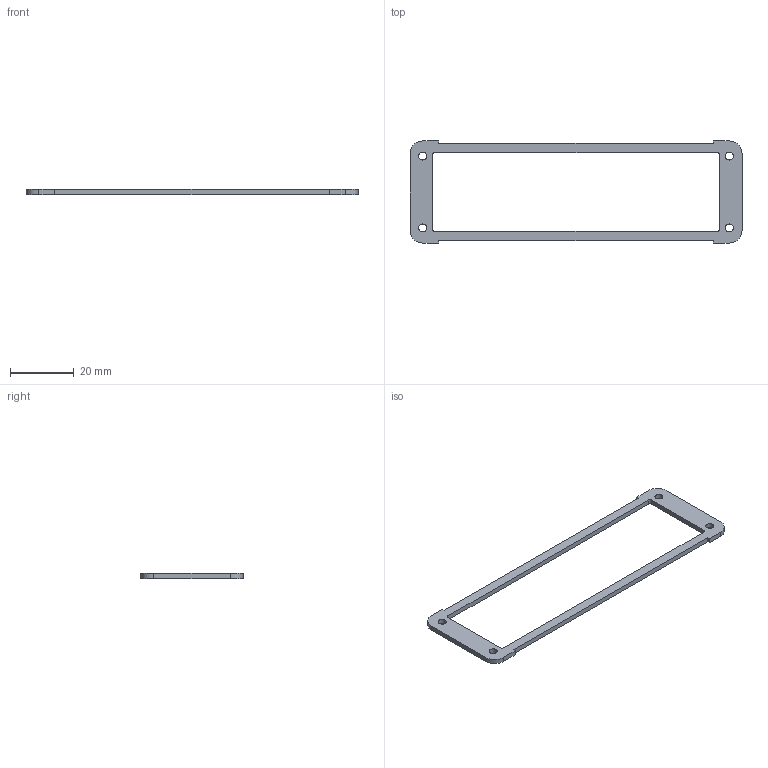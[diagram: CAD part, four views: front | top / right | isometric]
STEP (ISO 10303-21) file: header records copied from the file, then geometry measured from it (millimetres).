
FILE_DESCRIPTION(/* description */ (''),/* implementation_level */ '2;1');
FILE_NAME(/* name */ '1457LPG-10.stp',/* time_stamp */ '2024-09-03T11:37:02-04:00',/* author */ ('tfoster'),/* organization */ (''),/* preprocessor_version */ 'ST-DEVELOPER v20',/* originating_system */ 'Autodesk Inventor 2024',/* authorisation */ '');
FILE_SCHEMA (('AUTOMOTIVE_DESIGN { 1 0 10303 214 3 1 1 }'));
Length unit declared in the file: millimetre
Products named in the file (1): 80mm Gasket
Bounding box: 104 x 32 x 1.57 mm (x, y, z)
Volume: 1513.1 mm3; surface area: 2752.7 mm2
Topology: 1 solids, 1 shells, 30 faces, 84 edges, 56 vertices
Faces by surface type: plane 18, cylinder 12
Full cylindrical faces by diameter (mm): 2.5 x4
Entity records: 1035 total; most frequent: CARTESIAN_POINT 171, DIRECTION 170, ORIENTED_EDGE 168, EDGE_CURVE 84, LINE 60, VECTOR 60, VERTEX_POINT 56, AXIS2_PLACEMENT_3D 55
